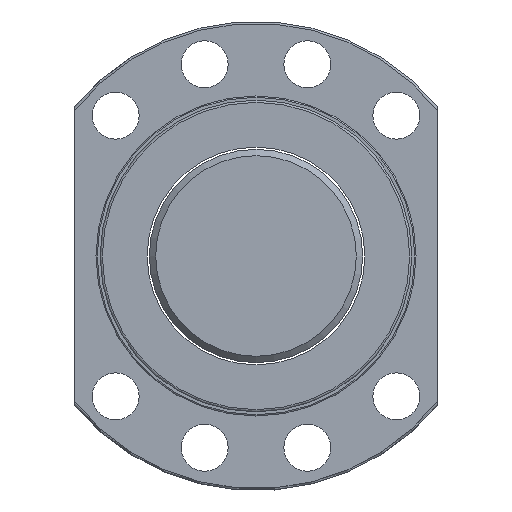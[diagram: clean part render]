
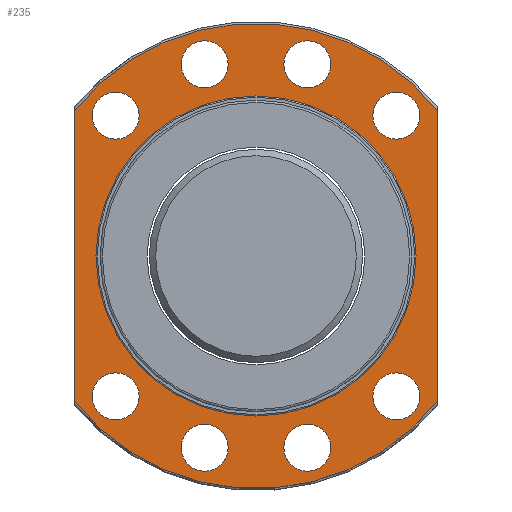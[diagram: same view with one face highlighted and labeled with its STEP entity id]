
A CAD part, left-side view. The second image highlights one B-rep face of the part: STEP entity #235.
In plain terms, the highlighted planar face has unit normal (-1, 0, 0).
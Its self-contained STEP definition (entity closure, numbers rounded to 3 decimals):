
#109=LINE('',#1171,#117);
#110=LINE('',#1172,#118);
#117=VECTOR('',#851,1.);
#118=VECTOR('',#852,1.);
#175=FACE_BOUND('',#323,.T.);
#176=FACE_BOUND('',#324,.T.);
#177=FACE_BOUND('',#325,.T.);
#178=FACE_BOUND('',#326,.T.);
#179=FACE_BOUND('',#327,.T.);
#180=FACE_BOUND('',#328,.T.);
#181=FACE_BOUND('',#329,.T.);
#182=FACE_BOUND('',#330,.T.);
#183=FACE_BOUND('',#331,.T.);
#235=ADVANCED_FACE('',(#175,#176,#177,#178,#179,#180,#181,#182,#183,#282),
#262,.F.);
#262=PLANE('',#707);
#282=FACE_OUTER_BOUND('',#332,.T.);
#323=EDGE_LOOP('',(#428));
#324=EDGE_LOOP('',(#429));
#325=EDGE_LOOP('',(#430));
#326=EDGE_LOOP('',(#431));
#327=EDGE_LOOP('',(#432));
#328=EDGE_LOOP('',(#433));
#329=EDGE_LOOP('',(#434));
#330=EDGE_LOOP('',(#435));
#331=EDGE_LOOP('',(#436));
#332=EDGE_LOOP('',(#437,#438,#439,#440));
#428=ORIENTED_EDGE('',*,*,#588,.T.);
#429=ORIENTED_EDGE('',*,*,#589,.T.);
#430=ORIENTED_EDGE('',*,*,#590,.T.);
#431=ORIENTED_EDGE('',*,*,#591,.T.);
#432=ORIENTED_EDGE('',*,*,#592,.T.);
#433=ORIENTED_EDGE('',*,*,#593,.T.);
#434=ORIENTED_EDGE('',*,*,#594,.T.);
#435=ORIENTED_EDGE('',*,*,#595,.T.);
#436=ORIENTED_EDGE('',*,*,#596,.T.);
#437=ORIENTED_EDGE('',*,*,#597,.F.);
#438=ORIENTED_EDGE('',*,*,#582,.F.);
#439=ORIENTED_EDGE('',*,*,#598,.T.);
#440=ORIENTED_EDGE('',*,*,#586,.F.);
#525=VERTEX_POINT('',#1070);
#526=VERTEX_POINT('',#1071);
#527=VERTEX_POINT('',#1130);
#528=VERTEX_POINT('',#1132);
#529=VERTEX_POINT('',#1154);
#530=VERTEX_POINT('',#1156);
#531=VERTEX_POINT('',#1158);
#532=VERTEX_POINT('',#1160);
#533=VERTEX_POINT('',#1162);
#534=VERTEX_POINT('',#1164);
#535=VERTEX_POINT('',#1166);
#536=VERTEX_POINT('',#1168);
#537=VERTEX_POINT('',#1170);
#582=EDGE_CURVE('',#525,#526,#633,.T.);
#586=EDGE_CURVE('',#527,#528,#634,.T.);
#588=EDGE_CURVE('',#529,#529,#635,.T.);
#589=EDGE_CURVE('',#530,#530,#636,.T.);
#590=EDGE_CURVE('',#531,#531,#637,.T.);
#591=EDGE_CURVE('',#532,#532,#638,.T.);
#592=EDGE_CURVE('',#533,#533,#639,.T.);
#593=EDGE_CURVE('',#534,#534,#640,.T.);
#594=EDGE_CURVE('',#535,#535,#641,.T.);
#595=EDGE_CURVE('',#536,#536,#642,.T.);
#596=EDGE_CURVE('',#537,#537,#643,.T.);
#597=EDGE_CURVE('',#526,#527,#109,.T.);
#598=EDGE_CURVE('',#525,#528,#110,.T.);
#633=CIRCLE('',#694,54.5);
#634=CIRCLE('',#696,54.5);
#635=CIRCLE('',#698,37.5);
#636=CIRCLE('',#699,5.5);
#637=CIRCLE('',#700,5.5);
#638=CIRCLE('',#701,5.5);
#639=CIRCLE('',#702,5.5);
#640=CIRCLE('',#703,5.5);
#641=CIRCLE('',#704,5.5);
#642=CIRCLE('',#705,5.5);
#643=CIRCLE('',#706,5.5);
#694=AXIS2_PLACEMENT_3D('',#1069,#825,#826);
#696=AXIS2_PLACEMENT_3D('',#1131,#829,#830);
#698=AXIS2_PLACEMENT_3D('',#1153,#833,#834);
#699=AXIS2_PLACEMENT_3D('',#1155,#835,#836);
#700=AXIS2_PLACEMENT_3D('',#1157,#837,#838);
#701=AXIS2_PLACEMENT_3D('',#1159,#839,#840);
#702=AXIS2_PLACEMENT_3D('',#1161,#841,#842);
#703=AXIS2_PLACEMENT_3D('',#1163,#843,#844);
#704=AXIS2_PLACEMENT_3D('',#1165,#845,#846);
#705=AXIS2_PLACEMENT_3D('',#1167,#847,#848);
#706=AXIS2_PLACEMENT_3D('',#1169,#849,#850);
#707=AXIS2_PLACEMENT_3D('',#1173,#853,#854);
#825=DIRECTION('',(1.,0.,0.));
#826=DIRECTION('',(0.,1.,0.));
#829=DIRECTION('',(1.,0.,0.));
#830=DIRECTION('',(0.,1.,0.));
#833=DIRECTION('',(1.,0.,0.));
#834=DIRECTION('',(0.,1.,0.));
#835=DIRECTION('',(1.,0.,0.));
#836=DIRECTION('',(0.,1.,0.));
#837=DIRECTION('',(1.,0.,0.));
#838=DIRECTION('',(0.,1.,0.));
#839=DIRECTION('',(1.,0.,0.));
#840=DIRECTION('',(0.,1.,0.));
#841=DIRECTION('',(1.,0.,0.));
#842=DIRECTION('',(0.,1.,0.));
#843=DIRECTION('',(1.,0.,0.));
#844=DIRECTION('',(0.,1.,0.));
#845=DIRECTION('',(1.,0.,0.));
#846=DIRECTION('',(0.,1.,0.));
#847=DIRECTION('',(1.,0.,0.));
#848=DIRECTION('',(0.,1.,0.));
#849=DIRECTION('',(1.,0.,0.));
#850=DIRECTION('',(0.,1.,0.));
#851=DIRECTION('',(0.,0.,1.));
#852=DIRECTION('',(0.,0.,1.));
#853=DIRECTION('',(1.,0.,0.));
#854=DIRECTION('',(0.,1.,0.));
#1069=CARTESIAN_POINT('',(18.175,0.,0.));
#1070=CARTESIAN_POINT('',(18.175,-42.5,-34.117));
#1071=CARTESIAN_POINT('',(18.175,42.5,-34.117));
#1130=CARTESIAN_POINT('',(18.175,42.5,34.117));
#1131=CARTESIAN_POINT('',(18.175,0.,0.));
#1132=CARTESIAN_POINT('',(18.175,-42.5,34.117));
#1153=CARTESIAN_POINT('',(18.175,0.,0.));
#1154=CARTESIAN_POINT('',(18.175,37.5,0.));
#1155=CARTESIAN_POINT('',(18.175,12.035,44.916));
#1156=CARTESIAN_POINT('',(18.175,17.535,44.916));
#1157=CARTESIAN_POINT('',(18.175,-12.035,44.916));
#1158=CARTESIAN_POINT('',(18.175,-6.535,44.916));
#1159=CARTESIAN_POINT('',(18.175,-12.035,-44.916));
#1160=CARTESIAN_POINT('',(18.175,-6.535,-44.916));
#1161=CARTESIAN_POINT('',(18.175,12.035,-44.916));
#1162=CARTESIAN_POINT('',(18.175,17.535,-44.916));
#1163=CARTESIAN_POINT('',(18.175,-32.88,32.881));
#1164=CARTESIAN_POINT('',(18.175,-27.38,32.881));
#1165=CARTESIAN_POINT('',(18.175,32.881,32.881));
#1166=CARTESIAN_POINT('',(18.175,38.381,32.881));
#1167=CARTESIAN_POINT('',(18.175,-32.88,-32.881));
#1168=CARTESIAN_POINT('',(18.175,-27.38,-32.881));
#1169=CARTESIAN_POINT('',(18.175,32.881,-32.881));
#1170=CARTESIAN_POINT('',(18.175,38.381,-32.881));
#1171=CARTESIAN_POINT('',(18.175,42.5,0.));
#1172=CARTESIAN_POINT('',(18.175,-42.5,0.));
#1173=CARTESIAN_POINT('',(18.175,46.,0.));
